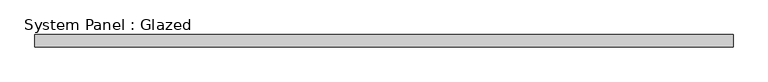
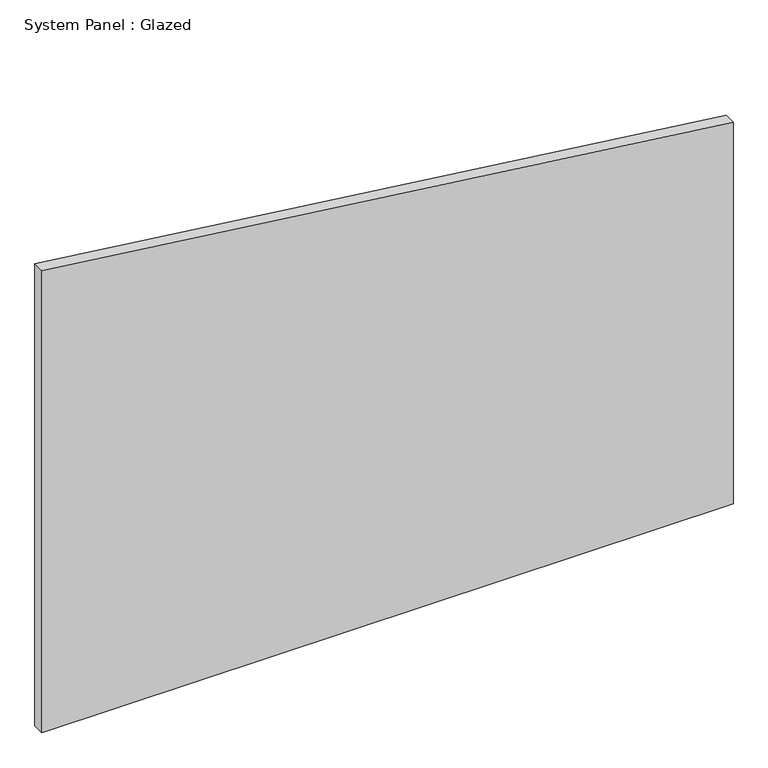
"""IFC4 building model written with IfcOpenShell, lengths in millimetres: plate geometry, System Panel : Glazed."""

import ifcopenshell
import ifcopenshell.guid

model = None  # the IFC model being written
_history = None  # IfcOwnerHistory: only IFC2X3 demands one
_inside = {}  # id of a spatial element -> (the spatial element, [elements in it])
_under = {}  # id of a project, library or spatial element -> (it, [spatial elements below it])
_declared = {}  # id of a project -> (the project, [libraries it declares])
_typed = {}  # id of a type object -> (the type object, [elements of that type])
_made_of = {}  # id of a material, layer set ... -> (it, [elements and type objects made of it])


def new_model(schema):
    """Start an empty IFC model of exactly this schema.

    Asked for "IFC4X3", IfcOpenShell would pick the latest addendum, in which some entities
    have other attributes; the version numbers below select the first issue.
    IFC2X3 requires an IfcOwnerHistory on every rooted entity: one is made here for all.
    """
    global model, _history
    if schema == "IFC4X3":
        model = ifcopenshell.file(schema_version=(4, 3, 0, 0))
    else:
        model = ifcopenshell.file(schema=schema)
    _inside.clear()
    _under.clear()
    _declared.clear()
    _typed.clear()
    _made_of.clear()
    _history = None
    if model.schema == "IFC2X3":
        org = make("IfcOrganization", Name="unknown")
        user = make(
            "IfcPersonAndOrganization",
            ThePerson=make("IfcPerson", FamilyName="unknown"),
            TheOrganization=org,
        )
        app = make(
            "IfcApplication",
            ApplicationDeveloper=org,
            Version="unknown",
            ApplicationFullName="unknown",
            ApplicationIdentifier="unknown",
        )
        _history = make(
            "IfcOwnerHistory",
            OwningUser=user,
            OwningApplication=app,
            ChangeAction="ADDED",
            CreationDate=0,
        )
    return model


def make(cls, **values):
    """One entity of the class cls with the attributes given. An attribute that is None is left unset."""
    return model.create_entity(
        cls, **{name: value for name, value in values.items() if value is not None}
    )


def rooted(cls, **values):
    """An entity with a GlobalId (a new one), such as an element, a storey or a relation."""
    return make(cls, GlobalId=ifcopenshell.guid.new(), OwnerHistory=_history, **values)


def si_unit(unit_type, name, prefix=None):
    """IfcSIUnit, for example si_unit("LENGTHUNIT", "METRE", prefix="MILLI")."""
    return make("IfcSIUnit", UnitType=unit_type, Prefix=prefix, Name=name)


def assignment(units):
    """IfcUnitAssignment: the units of a project."""
    return None if units is None else make("IfcUnitAssignment", Units=units)


def point(xyz):
    """IfcCartesianPoint."""
    return None if xyz is None else make("IfcCartesianPoint", Coordinates=xyz)


def direction(xyz):
    """IfcDirection."""
    return None if xyz is None else make("IfcDirection", DirectionRatios=xyz)


def frame(location, z_axis=None, x_axis=None):
    """IfcAxis2Placement3D, a coordinate frame: its origin and axes. An axis left out is left unset."""
    return make(
        "IfcAxis2Placement3D",
        Location=point(location),
        Axis=direction(z_axis),
        RefDirection=direction(x_axis),
    )


def origin():
    """The frame at (0, 0, 0) with its axes left unset."""
    return frame((0.0, 0.0, 0.0))


def place(relative_to, where):
    """IfcLocalPlacement: puts the frame where relative to a parent placement (None: the world)."""
    return make(
        "IfcLocalPlacement", PlacementRelTo=relative_to, RelativePlacement=where
    )


def context(
    kind, dimensions, precision=None, world=None, true_north=None, identifier=None
):
    """IfcGeometricRepresentationContext, for example the 3D "Model" context."""
    return make(
        "IfcGeometricRepresentationContext",
        ContextIdentifier=identifier,
        ContextType=kind,
        CoordinateSpaceDimension=dimensions,
        Precision=precision,
        WorldCoordinateSystem=world,
        TrueNorth=true_north,
    )


def project(units=None, contexts=None):
    """IfcProject with its units and contexts."""
    return rooted(
        "IfcProject",
        Name="project",
        RepresentationContexts=contexts,
        UnitsInContext=assignment(units),
    )


def spatial(cls, under=None, at=None, **own):
    """A site, building, storey or space (cls), placed at a placement, below another one or the project."""
    s = rooted(cls, ObjectPlacement=at, **own)
    if under is not None:
        _under.setdefault(under.id(), (under, []))[1].append(s)
    return s


def polyline(points):
    """IfcPolyline through the points."""
    return make("IfcPolyline", Points=[point(p) for p in points])


def outline(outer, holes=None, kind="AREA"):
    """IfcArbitraryClosedProfileDef: a profile drawn as a closed curve; with holes, ...WithVoids."""
    if holes is None:
        return make("IfcArbitraryClosedProfileDef", ProfileType=kind, OuterCurve=outer)
    return make(
        "IfcArbitraryProfileDefWithVoids",
        ProfileType=kind,
        OuterCurve=outer,
        InnerCurves=holes,
    )


def extrude(swept, where, along, depth):
    """IfcExtrudedAreaSolid: the profile swept, set in the frame where, extruded along a direction by depth."""
    return make(
        "IfcExtrudedAreaSolid",
        SweptArea=swept,
        Position=where,
        ExtrudedDirection=direction(along),
        Depth=depth,
    )


def shape(context_of_items, identifier, shape_type, items):
    """IfcShapeRepresentation: the items that make up one representation, for example the "Body"."""
    return make(
        "IfcShapeRepresentation",
        ContextOfItems=context_of_items,
        RepresentationIdentifier=identifier,
        RepresentationType=shape_type,
        Items=items,
    )


def source(mapping_origin, context_of_items, identifier, shape_type, items):
    """IfcRepresentationMap: a shape defined once, which mapped items show again and again."""
    return make(
        "IfcRepresentationMap",
        MappingOrigin=mapping_origin,
        MappedRepresentation=shape(context_of_items, identifier, shape_type, items),
    )


def transform(
    local_origin,
    x_axis=None,
    y_axis=None,
    z_axis=None,
    scale=None,
    scale2=None,
    scale3=None,
    uniform=True,
):
    """IfcCartesianTransformationOperator3D, or its non-uniform kind. x_axis, y_axis, z_axis: its Axis1, 2, 3."""
    if uniform:
        return make(
            "IfcCartesianTransformationOperator3D",
            Axis1=direction(x_axis),
            Axis2=direction(y_axis),
            LocalOrigin=point(local_origin),
            Scale=scale,
            Axis3=direction(z_axis),
        )
    return make(
        "IfcCartesianTransformationOperator3DnonUniform",
        Axis1=direction(x_axis),
        Axis2=direction(y_axis),
        LocalOrigin=point(local_origin),
        Scale=scale,
        Axis3=direction(z_axis),
        Scale2=scale2,
        Scale3=scale3,
    )


def mapped(mapping_source, mapping_target):
    """IfcMappedItem: shows the shape of a source again, moved by a transform."""
    return make(
        "IfcMappedItem", MappingSource=mapping_source, MappingTarget=mapping_target
    )


def made_of(thing, what):
    """Note that an element or type object is made of a material, layer set ...; save() writes the relation."""
    if what is not None:
        _made_of.setdefault(what.id(), (what, []))[1].append(thing)
    return thing


def element(
    cls,
    number,
    at=None,
    inside=None,
    cuts=None,
    type_object=None,
    material=None,
    context=None,
    identifier="Body",
    shape_type=None,
    held_by="IfcProductDefinitionShape",
    body=None,
    shapes=None,
    **own,
):
    """One element of the class cls, such as IfcWall. Its Tag is "e" and its number.

    at: its placement. inside: the storey or other place that contains it. cuts: it is an
    opening in that element (IfcRelVoidsElement). A single representation is given by context,
    identifier, shape_type and body (its items); several are given by shapes. held_by: the class
    of the entity that holds the representations. save() writes the other relations.
    """
    e = rooted(cls, Tag="e%d" % number, ObjectPlacement=at, **own)
    if body is not None:
        shapes = [shape(context, identifier, shape_type, body)]
    if shapes is not None:
        e.Representation = make(held_by, Representations=shapes)
    if inside is not None:
        _inside.setdefault(inside.id(), (inside, []))[1].append(e)
    if cuts is not None:
        rooted(
            "IfcRelVoidsElement", RelatingBuildingElement=cuts, RelatedOpeningElement=e
        )
    if type_object is not None:
        _typed.setdefault(type_object.id(), (type_object, []))[1].append(e)
    return made_of(e, material)


def aggregate(whole, parts):
    """IfcRelAggregates: a whole, such as a stair, and the parts it consists of."""
    return rooted("IfcRelAggregates", RelatingObject=whole, RelatedObjects=parts)


def save(model, path):
    """Write the relations noted so far, then the file.

    IfcRelAggregates (storeys below a building ...), IfcRelContainedInSpatialStructure (elements
    in a storey), IfcRelDefinesByType, IfcRelAssociatesMaterial and IfcRelDeclares: one each for
    every whole, place, type object, material and project.
    """
    for whole, parts in _under.values():
        aggregate(whole, parts)
    for where, things in _inside.values():
        rooted(
            "IfcRelContainedInSpatialStructure",
            RelatedElements=things,
            RelatingStructure=where,
        )
    for kind, things in _typed.values():
        rooted("IfcRelDefinesByType", RelatedObjects=things, RelatingType=kind)
    for what, things in _made_of.values():
        rooted("IfcRelAssociatesMaterial", RelatedObjects=things, RelatingMaterial=what)
    for by, libraries in _declared.values():
        rooted("IfcRelDeclares", RelatingContext=by, RelatedDefinitions=libraries)
    model.write(path)


def system_panel_glazed_07299630(model_context):
    return source(origin(), model_context, "Body", "SweptSolid", [
        extrude(outline(polyline([(0.0, -714.463158), (0.0, 714.463158), (834.0524336, 714.463158), (1009.5025239, -714.463158), (0.0, -714.463158)])), frame((0.0, 24.5, 0.0), z_axis=(0.0, 1.0, 0.0), x_axis=(0.0, 0.0, 1.0)), (0.0, 0.0, 1.0), 25.0),
    ])


if __name__ == "__main__":
    model = new_model("IFC4")
    model_context = context("Model", 3, world=origin())
    ifc_project = project(units=[si_unit("LENGTHUNIT", "METRE", prefix="MILLI")], contexts=[model_context])
    site = spatial("IfcSite", under=ifc_project)
    building = spatial("IfcBuilding", under=site)
    placement = place(None, origin())
    system_panel_glazed_shape = system_panel_glazed_07299630(model_context)
    element("IfcPlate", 1, ObjectType="System Panel : Glazed", at=placement, inside=building, context=model_context, shape_type="MappedRepresentation", body=[
        mapped(system_panel_glazed_shape, transform((0.0, 0.0, 0.0), x_axis=(1.0, 0.0, 0.0), y_axis=(0.0, 1.0, 0.0), z_axis=(0.0, 0.0, 1.0))),
    ])
    save(model, "model.ifc")
